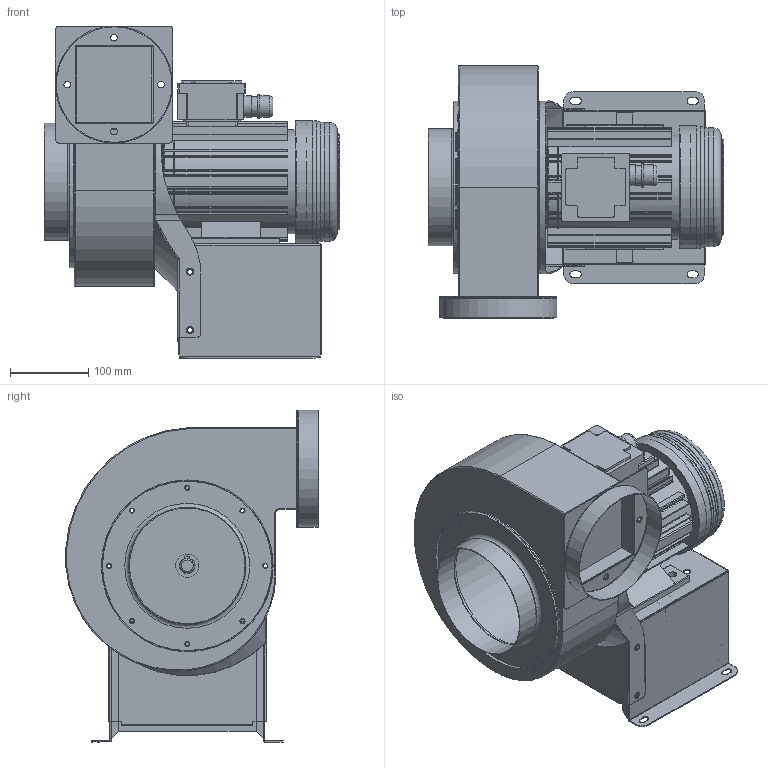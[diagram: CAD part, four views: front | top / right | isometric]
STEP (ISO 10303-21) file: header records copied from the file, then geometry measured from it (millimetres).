
FILE_DESCRIPTION(/* description */ ('Unknown'),/* implementation_level */ '2;1');
FILE_NAME(/* name */ 'CY180A2P3Y-EG-AL 型錄',/* time_stamp */ '2026-04-27T15:21:25+08:00',/* author */ ('Unknown'),/* organization */ ('Unknown'),/* preprocessor_version */ 'ST-DEVELOPER v20',/* originating_system */ 'Solid Edge',/* authorisation */ 'Unknown');
FILE_SCHEMA (('AUTOMOTIVE_DESIGN {1 0 10303 214 3 1 1}'));
Length unit declared in the file: millimetre
Products named in the file (10): CY180A2P3Y-EG-AL 型; CY180-01; CY180-04; CY180-05; CY180-06+07; CY180-07; CY180##07; CY180##07-1; CY180-06; JM1802P3-EG-AL3
Assembly tree (10 placements, depth 4):
  CY180A2P3Y-EG-AL 型
    CY180-01
    CY180-04
    CY180-05
    CY180-06+07
      CY180-07
        CY180##07
        CY180##07-1  x2
      CY180-06
    JM1802P3-EG-AL3
Bounding box: 377.9 x 322.83 x 425 mm (x, y, z)
Volume: 8440614.2 mm3; surface area: 1188129.8 mm2
Topology: 9 solids, 10 shells, 826 faces, 2257 edges, 1413 vertices
Faces by surface type: plane 377, cylinder 372, torus 38, bspline 17, cone 14, sphere 8
Full cylindrical faces by diameter (mm): 5 x8, 6.5 x24, 6.647 x4, 8.5 x8, 8.6 x4, 9 x8, 10.5 x4, 19 x1, 20 x1, 25 x1, 26.5 x1, 27 x2, 30 x2, 131 x2, 133.5 x1, 148 x2, 150 x3, 152 x1, 155 x2, 157 x1, 183 x1, 217 x1, 218 x1, 220 x1
Entity records: 25263 total; most frequent: CARTESIAN_POINT 4881, DIRECTION 4305, ORIENTED_EDGE 4032, EDGE_CURVE 2016, AXIS2_PLACEMENT_3D 1603, VERTEX_POINT 1323, LINE 1099, VECTOR 1099
